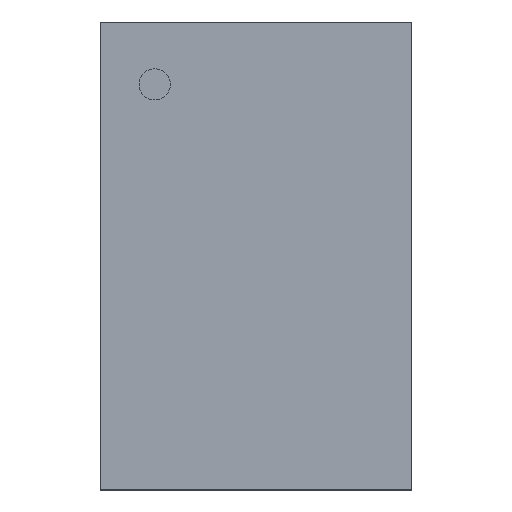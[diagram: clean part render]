
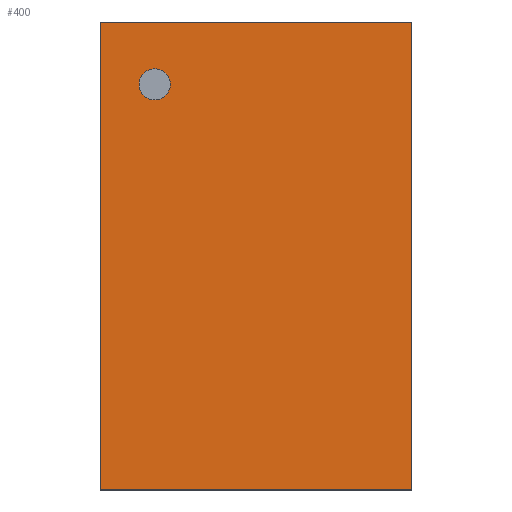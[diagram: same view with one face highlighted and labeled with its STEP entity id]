
A CAD part, top view. The second image highlights one B-rep face of the part: STEP entity #400.
In plain terms, the highlighted planar face has unit normal (0, 0, 1).
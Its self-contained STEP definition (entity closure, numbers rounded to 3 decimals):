
#86 = VERTEX_POINT('',#87);
#87 = CARTESIAN_POINT('',(-1.,-1.5,0.9));
#94 = PLANE('',#95);
#95 = AXIS2_PLACEMENT_3D('',#96,#97,#98);
#96 = CARTESIAN_POINT('',(-1.,-1.5,0.025));
#97 = DIRECTION('',(1.,0.,0.));
#98 = DIRECTION('',(0.,0.,1.));
#106 = PLANE('',#107);
#107 = AXIS2_PLACEMENT_3D('',#108,#109,#110);
#108 = CARTESIAN_POINT('',(-1.,-1.5,0.025));
#109 = DIRECTION('',(0.,1.,0.));
#110 = DIRECTION('',(0.,0.,1.));
#147 = VERTEX_POINT('',#148);
#148 = CARTESIAN_POINT('',(-1.,1.5,0.9));
#162 = PLANE('',#163);
#163 = AXIS2_PLACEMENT_3D('',#164,#165,#166);
#164 = CARTESIAN_POINT('',(-1.,1.5,0.025));
#165 = DIRECTION('',(0.,1.,0.));
#166 = DIRECTION('',(0.,0.,1.));
#174 = EDGE_CURVE('',#86,#147,#175,.T.);
#175 = SURFACE_CURVE('',#176,(#180,#187),.PCURVE_S1.);
#176 = LINE('',#177,#178);
#177 = CARTESIAN_POINT('',(-1.,-1.5,0.9));
#178 = VECTOR('',#179,1.);
#179 = DIRECTION('',(0.,1.,0.));
#180 = PCURVE('',#94,#181);
#181 = DEFINITIONAL_REPRESENTATION('',(#182),#186);
#182 = LINE('',#183,#184);
#183 = CARTESIAN_POINT('',(0.875,0.));
#184 = VECTOR('',#185,1.);
#185 = DIRECTION('',(0.,-1.));
#186 = ( GEOMETRIC_REPRESENTATION_CONTEXT(2) 
PARAMETRIC_REPRESENTATION_CONTEXT() REPRESENTATION_CONTEXT('2D SPACE',''
  ) );
#187 = PCURVE('',#188,#193);
#188 = PLANE('',#189);
#189 = AXIS2_PLACEMENT_3D('',#190,#191,#192);
#190 = CARTESIAN_POINT('',(-1.,-1.5,0.9));
#191 = DIRECTION('',(0.,0.,1.));
#192 = DIRECTION('',(1.,0.,0.));
#193 = DEFINITIONAL_REPRESENTATION('',(#194),#198);
#194 = LINE('',#195,#196);
#195 = CARTESIAN_POINT('',(0.,0.));
#196 = VECTOR('',#197,1.);
#197 = DIRECTION('',(0.,1.));
#198 = ( GEOMETRIC_REPRESENTATION_CONTEXT(2) 
PARAMETRIC_REPRESENTATION_CONTEXT() REPRESENTATION_CONTEXT('2D SPACE',''
  ) );
#206 = VERTEX_POINT('',#207);
#207 = CARTESIAN_POINT('',(1.,-1.5,0.9));
#214 = PLANE('',#215);
#215 = AXIS2_PLACEMENT_3D('',#216,#217,#218);
#216 = CARTESIAN_POINT('',(1.,-1.5,0.025));
#217 = DIRECTION('',(1.,0.,0.));
#218 = DIRECTION('',(0.,0.,1.));
#257 = VERTEX_POINT('',#258);
#258 = CARTESIAN_POINT('',(1.,1.5,0.9));
#279 = EDGE_CURVE('',#206,#257,#280,.T.);
#280 = SURFACE_CURVE('',#281,(#285,#292),.PCURVE_S1.);
#281 = LINE('',#282,#283);
#282 = CARTESIAN_POINT('',(1.,-1.5,0.9));
#283 = VECTOR('',#284,1.);
#284 = DIRECTION('',(0.,1.,0.));
#285 = PCURVE('',#214,#286);
#286 = DEFINITIONAL_REPRESENTATION('',(#287),#291);
#287 = LINE('',#288,#289);
#288 = CARTESIAN_POINT('',(0.875,0.));
#289 = VECTOR('',#290,1.);
#290 = DIRECTION('',(0.,-1.));
#291 = ( GEOMETRIC_REPRESENTATION_CONTEXT(2) 
PARAMETRIC_REPRESENTATION_CONTEXT() REPRESENTATION_CONTEXT('2D SPACE',''
  ) );
#292 = PCURVE('',#188,#293);
#293 = DEFINITIONAL_REPRESENTATION('',(#294),#298);
#294 = LINE('',#295,#296);
#295 = CARTESIAN_POINT('',(2.,0.));
#296 = VECTOR('',#297,1.);
#297 = DIRECTION('',(0.,1.));
#298 = ( GEOMETRIC_REPRESENTATION_CONTEXT(2) 
PARAMETRIC_REPRESENTATION_CONTEXT() REPRESENTATION_CONTEXT('2D SPACE',''
  ) );
#325 = EDGE_CURVE('',#86,#206,#326,.T.);
#326 = SURFACE_CURVE('',#327,(#331,#338),.PCURVE_S1.);
#327 = LINE('',#328,#329);
#328 = CARTESIAN_POINT('',(-1.,-1.5,0.9));
#329 = VECTOR('',#330,1.);
#330 = DIRECTION('',(1.,0.,0.));
#331 = PCURVE('',#106,#332);
#332 = DEFINITIONAL_REPRESENTATION('',(#333),#337);
#333 = LINE('',#334,#335);
#334 = CARTESIAN_POINT('',(0.875,0.));
#335 = VECTOR('',#336,1.);
#336 = DIRECTION('',(0.,1.));
#337 = ( GEOMETRIC_REPRESENTATION_CONTEXT(2) 
PARAMETRIC_REPRESENTATION_CONTEXT() REPRESENTATION_CONTEXT('2D SPACE',''
  ) );
#338 = PCURVE('',#188,#339);
#339 = DEFINITIONAL_REPRESENTATION('',(#340),#344);
#340 = LINE('',#341,#342);
#341 = CARTESIAN_POINT('',(0.,0.));
#342 = VECTOR('',#343,1.);
#343 = DIRECTION('',(1.,0.));
#344 = ( GEOMETRIC_REPRESENTATION_CONTEXT(2) 
PARAMETRIC_REPRESENTATION_CONTEXT() REPRESENTATION_CONTEXT('2D SPACE',''
  ) );
#372 = EDGE_CURVE('',#147,#257,#373,.T.);
#373 = SURFACE_CURVE('',#374,(#378,#385),.PCURVE_S1.);
#374 = LINE('',#375,#376);
#375 = CARTESIAN_POINT('',(-1.,1.5,0.9));
#376 = VECTOR('',#377,1.);
#377 = DIRECTION('',(1.,0.,0.));
#378 = PCURVE('',#162,#379);
#379 = DEFINITIONAL_REPRESENTATION('',(#380),#384);
#380 = LINE('',#381,#382);
#381 = CARTESIAN_POINT('',(0.875,0.));
#382 = VECTOR('',#383,1.);
#383 = DIRECTION('',(0.,1.));
#384 = ( GEOMETRIC_REPRESENTATION_CONTEXT(2) 
PARAMETRIC_REPRESENTATION_CONTEXT() REPRESENTATION_CONTEXT('2D SPACE',''
  ) );
#385 = PCURVE('',#188,#386);
#386 = DEFINITIONAL_REPRESENTATION('',(#387),#391);
#387 = LINE('',#388,#389);
#388 = CARTESIAN_POINT('',(0.,3.));
#389 = VECTOR('',#390,1.);
#390 = DIRECTION('',(1.,0.));
#391 = ( GEOMETRIC_REPRESENTATION_CONTEXT(2) 
PARAMETRIC_REPRESENTATION_CONTEXT() REPRESENTATION_CONTEXT('2D SPACE',''
  ) );
#400 = ADVANCED_FACE('',(#401),#188,.T.);
#401 = FACE_BOUND('',#402,.T.);
#402 = EDGE_LOOP('',(#403,#404,#405,#406));
#403 = ORIENTED_EDGE('',*,*,#174,.F.);
#404 = ORIENTED_EDGE('',*,*,#325,.T.);
#405 = ORIENTED_EDGE('',*,*,#279,.T.);
#406 = ORIENTED_EDGE('',*,*,#372,.F.);
